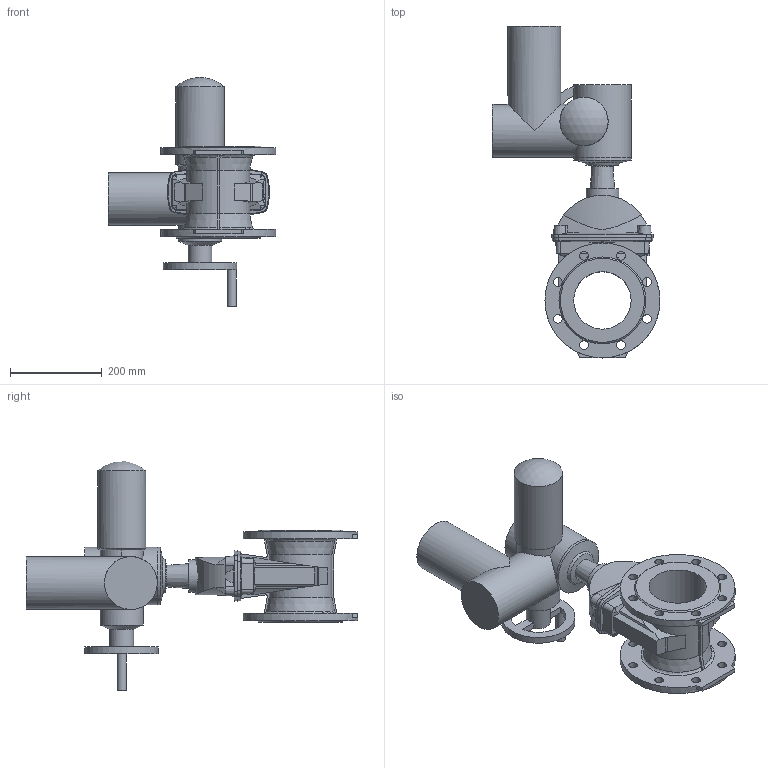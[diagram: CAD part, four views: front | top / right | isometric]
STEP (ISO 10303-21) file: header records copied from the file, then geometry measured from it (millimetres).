
FILE_DESCRIPTION (( 'STEP AP203' ), '1' );
FILE_NAME ('O_15_42_DN125_X1XXX099_SA07.6_AA0.step', '2017-03-20T12:35:49', ( 'Windows User' ), ( 'AVK' ), 'SwSTEP 2.0', 'SolidWorks 2012', '' );
FILE_SCHEMA (( 'CONFIG_CONTROL_DESIGN' ));
Length unit declared in the file: inch
Products named in the file (1): O_15_42_DN125_X1XXX099_SA07.6_AA0
Bounding box: 365 x 722 x 498.55 mm (x, y, z)
Volume: 12647748.6 mm3; surface area: 789733.4 mm2
Topology: 1 solids, 1 shells, 283 faces, 806 edges, 530 vertices
Faces by surface type: plane 134, cone 58, cylinder 47, bspline 39, sphere 3, torus 2
Full cylindrical faces by diameter (mm): 19 x16, 20 x1, 52.112 x1, 71 x1, 93.905 x1, 105 x1, 115 x2, 125 x3, 160 x1, 250 x2
Entity records: 10553 total; most frequent: CARTESIAN_POINT 3698, ORIENTED_EDGE 1464, DIRECTION 1278, EDGE_CURVE 732, VERTEX_POINT 500, AXIS2_PLACEMENT_3D 443, LINE 392, VECTOR 392
